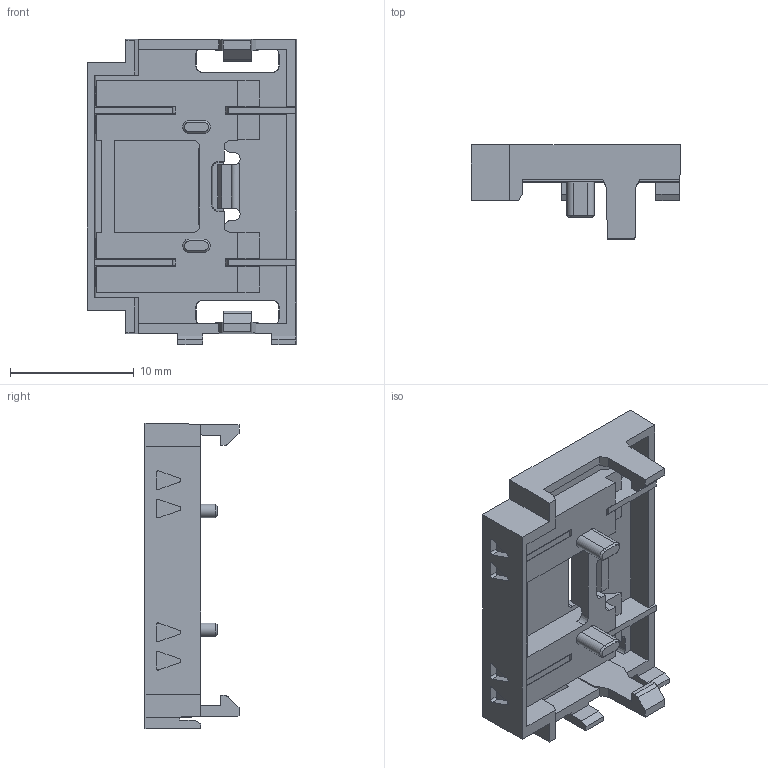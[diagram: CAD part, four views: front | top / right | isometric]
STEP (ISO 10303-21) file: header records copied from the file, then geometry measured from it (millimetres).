
FILE_DESCRIPTION((''),'2;1');
FILE_NAME('LG-QSFP-ASM-B_ASM','2019-02-14T',('calvi'),(''),'CREO PARAMETRIC BY PTC INC, 2015480','CREO PARAMETRIC BY PTC INC, 2015480','');
FILE_SCHEMA(('CONFIG_CONTROL_DESIGN'));
Length unit declared in the file: millimetre
Products named in the file (3): LG-QSFP-B1; LG-QSFP-B2; LG-QSFP-ASM-B_ASM
Assembly tree (2 placements, depth 2):
  LG-QSFP-ASM-B_ASM
    LG-QSFP-B1
    LG-QSFP-B2
Bounding box: 16.9 x 7.6 x 24.7 mm (x, y, z)
Volume: 768.1 mm3; surface area: 2020.8 mm2
Topology: 2 solids, 2 shells, 218 faces, 637 edges, 422 vertices
Faces by surface type: plane 163, cylinder 31, cone 22, bspline 2
Entity records: 9492 total; most frequent: CARTESIAN_POINT 1518, ORIENTED_EDGE 1274, DIRECTION 1098, PRESENTATION_STYLE_ASSIGNMENT 651, STYLED_ITEM 639, CURVE_STYLE 637, EDGE_CURVE 637, VECTOR 520
